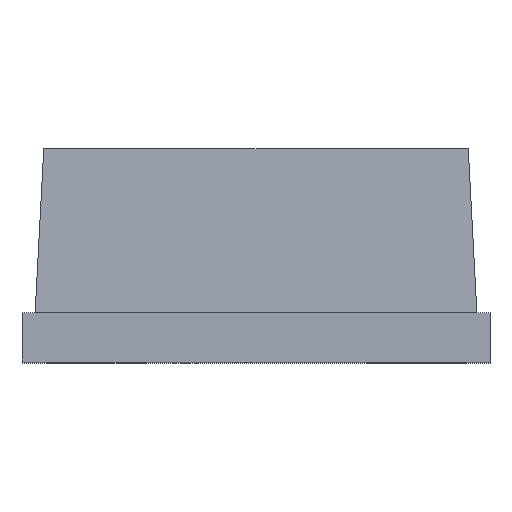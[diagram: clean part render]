
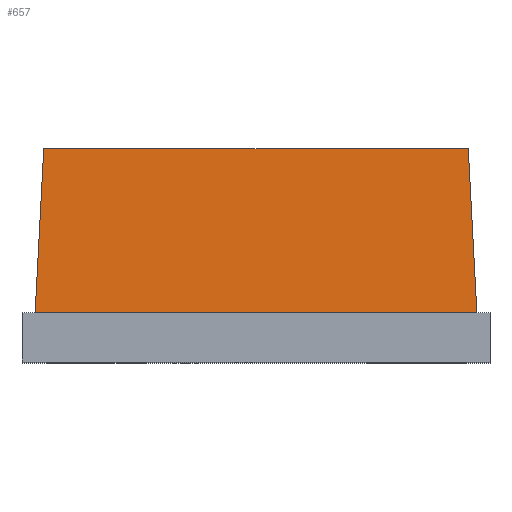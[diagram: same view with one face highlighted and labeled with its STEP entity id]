
A CAD part, top view. The second image highlights one B-rep face of the part: STEP entity #657.
In plain terms, the highlighted planar face has unit normal (0, 0.052, 0.999).
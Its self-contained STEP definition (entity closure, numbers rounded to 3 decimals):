
#54 = CARTESIAN_POINT ( 'NONE',  ( 1.345, 0.3, 2.37 ) ) ;
#117 = DIRECTION ( 'NONE',  ( -0.052, -0.997, 0.052 ) ) ;
#138 = VECTOR ( 'NONE', #1699, 1000. ) ;
#190 = VECTOR ( 'NONE', #3936, 1000. ) ;
#431 = VECTOR ( 'NONE', #2862, 1000. ) ;
#566 = ORIENTED_EDGE ( 'NONE', *, *, #2767, .T. ) ;
#568 = CARTESIAN_POINT ( 'NONE',  ( 1.345, 0.3, 2.37 ) ) ;
#657 = ADVANCED_FACE ( 'NONE', ( #3245 ), #3380, .T. ) ;
#780 = CARTESIAN_POINT ( 'NONE',  ( -1.345, 0.3, 2.37 ) ) ;
#946 = VERTEX_POINT ( 'NONE', #3900 ) ;
#969 = ORIENTED_EDGE ( 'NONE', *, *, #3796, .T. ) ;
#1056 = EDGE_LOOP ( 'NONE', ( #566, #2316, #2537, #969 ) ) ;
#1092 = CARTESIAN_POINT ( 'NONE',  ( -1.293, 1.3, 2.318 ) ) ;
#1249 = VERTEX_POINT ( 'NONE', #2750 ) ;
#1391 = VERTEX_POINT ( 'NONE', #1092 ) ;
#1509 = DIRECTION ( 'NONE',  ( 0., -0.999, 0.052 ) ) ;
#1699 = DIRECTION ( 'NONE',  ( 1., 0., 0. ) ) ;
#1771 = EDGE_CURVE ( 'NONE', #1249, #2306, #1966, .T. ) ;
#1966 = LINE ( 'NONE', #54, #431 ) ;
#2111 = LINE ( 'NONE', #780, #190 ) ;
#2126 = CARTESIAN_POINT ( 'NONE',  ( -1.345, 0.3, 2.37 ) ) ;
#2306 = VERTEX_POINT ( 'NONE', #568 ) ;
#2316 = ORIENTED_EDGE ( 'NONE', *, *, #1771, .F. ) ;
#2343 = LINE ( 'NONE', #3218, #138 ) ;
#2381 = LINE ( 'NONE', #2669, #2616 ) ;
#2537 = ORIENTED_EDGE ( 'NONE', *, *, #2556, .F. ) ;
#2556 = EDGE_CURVE ( 'NONE', #1391, #1249, #2343, .T. ) ;
#2616 = VECTOR ( 'NONE', #117, 1000. ) ;
#2669 = CARTESIAN_POINT ( 'NONE',  ( -1.345, 0.3, 2.37 ) ) ;
#2750 = CARTESIAN_POINT ( 'NONE',  ( 1.293, 1.3, 2.318 ) ) ;
#2767 = EDGE_CURVE ( 'NONE', #946, #2306, #2111, .T. ) ;
#2831 = AXIS2_PLACEMENT_3D ( 'NONE', #2126, #3975, #1509 ) ;
#2862 = DIRECTION ( 'NONE',  ( 0.052, -0.997, 0.052 ) ) ;
#3218 = CARTESIAN_POINT ( 'NONE',  ( 0., 1.3, 2.318 ) ) ;
#3245 = FACE_OUTER_BOUND ( 'NONE', #1056, .T. ) ;
#3380 = PLANE ( 'NONE',  #2831 ) ;
#3796 = EDGE_CURVE ( 'NONE', #1391, #946, #2381, .T. ) ;
#3900 = CARTESIAN_POINT ( 'NONE',  ( -1.345, 0.3, 2.37 ) ) ;
#3936 = DIRECTION ( 'NONE',  ( 1., 0., 0. ) ) ;
#3975 = DIRECTION ( 'NONE',  ( 0., 0.052, 0.999 ) ) ;
